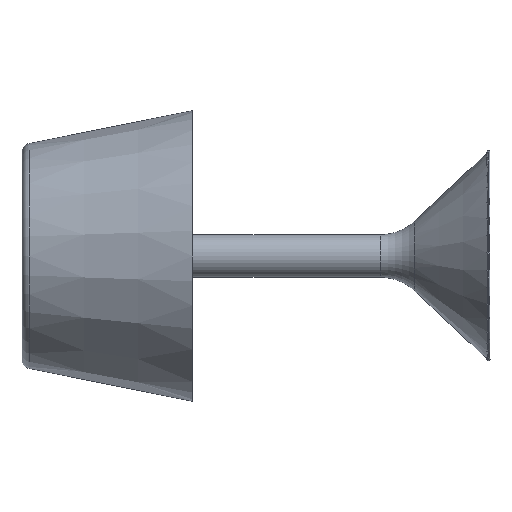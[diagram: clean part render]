
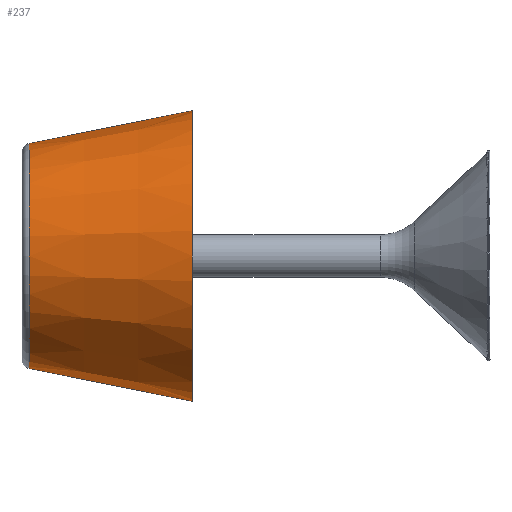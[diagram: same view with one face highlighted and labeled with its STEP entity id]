
A CAD part, left-side view. The second image highlights one B-rep face of the part: STEP entity #237.
In plain terms, the highlighted conical face has half-angle 11.351 degrees and reference radius 112.324 mm.
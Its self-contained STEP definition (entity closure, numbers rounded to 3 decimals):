
#47 = CARTESIAN_POINT ( 'NONE',  ( 0., 459.771, -112.324 ) ) ;
#159 = LINE ( 'NONE', #47, #212 ) ;
#210 = EDGE_CURVE ( 'NONE', #1285, #1076, #490, .T. ) ;
#212 = VECTOR ( 'NONE', #1459, 1000. ) ;
#227 = DIRECTION ( 'NONE',  ( 0., -1., 0. ) ) ;
#237 = ADVANCED_FACE ( 'NONE', ( #1775 ), #449, .T. ) ;
#244 = DIRECTION ( 'NONE',  ( 0., 0., -1. ) ) ;
#283 = ORIENTED_EDGE ( 'NONE', *, *, #855, .T. ) ;
#285 = CARTESIAN_POINT ( 'NONE',  ( 0., 459.771, 112.324 ) ) ;
#311 = DIRECTION ( 'NONE',  ( 0., 0., -1. ) ) ;
#449 = CONICAL_SURFACE ( 'NONE', #970, 112.324, 0.198 ) ;
#450 = ORIENTED_EDGE ( 'NONE', *, *, #210, .F. ) ;
#490 = CIRCLE ( 'NONE', #1754, 145. ) ;
#608 = ORIENTED_EDGE ( 'NONE', *, *, #2112, .T. ) ;
#636 = DIRECTION ( 'NONE',  ( 0., -0.98, 0.197 ) ) ;
#733 = CARTESIAN_POINT ( 'NONE',  ( 0., 459.771, 0. ) ) ;
#743 = AXIS2_PLACEMENT_3D ( 'NONE', #1536, #1843, #311 ) ;
#757 = CARTESIAN_POINT ( 'NONE',  ( 0., 459.771, -112.324 ) ) ;
#817 = CARTESIAN_POINT ( 'NONE',  ( 0., 297., -145. ) ) ;
#855 = EDGE_CURVE ( 'NONE', #1303, #1198, #1758, .T. ) ;
#970 = AXIS2_PLACEMENT_3D ( 'NONE', #733, #227, #1618 ) ;
#1022 = VECTOR ( 'NONE', #636, 1000. ) ;
#1076 = VERTEX_POINT ( 'NONE', #817 ) ;
#1198 = VERTEX_POINT ( 'NONE', #757 ) ;
#1285 = VERTEX_POINT ( 'NONE', #1863 ) ;
#1303 = VERTEX_POINT ( 'NONE', #285 ) ;
#1340 = LINE ( 'NONE', #1349, #1022 ) ;
#1349 = CARTESIAN_POINT ( 'NONE',  ( 0., 459.771, 112.324 ) ) ;
#1354 = ORIENTED_EDGE ( 'NONE', *, *, #2237, .F. ) ;
#1459 = DIRECTION ( 'NONE',  ( 0., -0.98, -0.197 ) ) ;
#1460 = CARTESIAN_POINT ( 'NONE',  ( 0., 297., 0. ) ) ;
#1536 = CARTESIAN_POINT ( 'NONE',  ( 0., 459.771, 0. ) ) ;
#1618 = DIRECTION ( 'NONE',  ( 0., 0., -1. ) ) ;
#1627 = DIRECTION ( 'NONE',  ( 0., -1., 0. ) ) ;
#1754 = AXIS2_PLACEMENT_3D ( 'NONE', #1460, #1627, #244 ) ;
#1758 = CIRCLE ( 'NONE', #743, 112.324 ) ;
#1775 = FACE_OUTER_BOUND ( 'NONE', #2108, .T. ) ;
#1843 = DIRECTION ( 'NONE',  ( 0., -1., 0. ) ) ;
#1863 = CARTESIAN_POINT ( 'NONE',  ( 0., 297., 145. ) ) ;
#2108 = EDGE_LOOP ( 'NONE', ( #1354, #283, #608, #450 ) ) ;
#2112 = EDGE_CURVE ( 'NONE', #1198, #1076, #159, .T. ) ;
#2237 = EDGE_CURVE ( 'NONE', #1303, #1285, #1340, .T. ) ;
